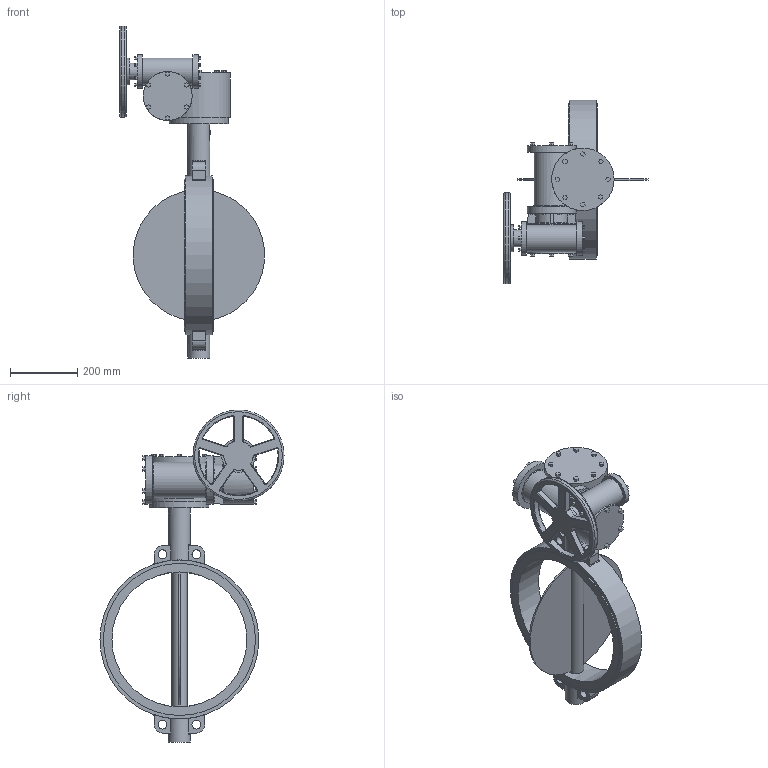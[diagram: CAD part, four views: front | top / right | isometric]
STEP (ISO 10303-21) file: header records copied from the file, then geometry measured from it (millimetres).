
FILE_DESCRIPTION(('STEP AP203'), '1');
FILE_NAME('青蜮铕 017W.YS_DN400_PN10_疱潴牝铕', '', ('UNSPECIFIED'), ('UNSPECIFIED'), 'ASCON STEP Converter 1.6', 'ASCON Math Kernel', '');
FILE_SCHEMA(('CONFIG_CONTROL_DESIGN'));
Length unit declared in the file: millimetre
Bounding box: 429.09 x 545.5 x 984 mm (x, y, z)
Volume: 14976098.9 mm3; surface area: 1104994.8 mm2
Topology: 7 solids, 7 shells, 543 faces, 1341 edges, 869 vertices
Faces by surface type: plane 381, cylinder 97, torus 51, cone 8, bspline 6
Full cylindrical faces by diameter (mm): 15.294 x4, 18 x4, 26 x4, 45 x1, 50.093 x1, 65 x2, 79.093 x1, 80 x1, 100 x2, 145 x3, 175 x1, 185 x1, 270 x1, 400 x1, 451 x2, 471 x1
Entity records: 24045 total; most frequent: CARTESIAN_POINT 6816, ORIENTED_EDGE 2590, DIRECTION 2573, EDGE_CURVE 1295, LINE 935, VECTOR 935, VERTEX_POINT 865, AXIS2_PLACEMENT_3D 819
